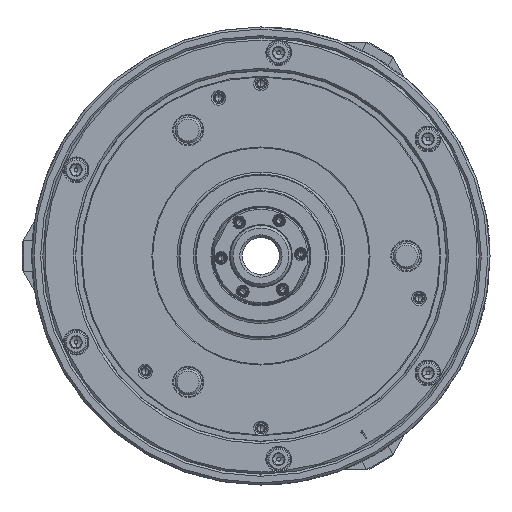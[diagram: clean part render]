
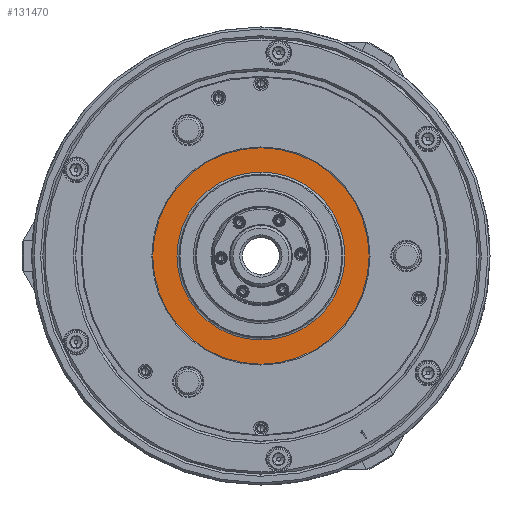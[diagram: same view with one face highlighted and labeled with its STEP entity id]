
A CAD part, left-side view. The second image highlights one B-rep face of the part: STEP entity #131470.
In plain terms, the highlighted planar face has unit normal (-1, 0, 0) as drawn and (0, 0, -1) by its records, which use the part's own axes.
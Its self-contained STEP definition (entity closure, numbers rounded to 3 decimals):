
#4096 = CARTESIAN_POINT ( 'NONE',  ( -49.616, 0., -104.8 ) ) ;
#4656 = FACE_OUTER_BOUND ( 'NONE', #110100, .T. ) ;
#9045 = CARTESIAN_POINT ( 'NONE',  ( 0., 0., -104.8 ) ) ;
#9092 = DIRECTION ( 'NONE',  ( -1., 0., 0. ) ) ;
#12666 = EDGE_CURVE ( 'NONE', #191942, #49890, #180348, .T. ) ;
#27998 = CARTESIAN_POINT ( 'NONE',  ( 0., 0., -104.8 ) ) ;
#35167 = ORIENTED_EDGE ( 'NONE', *, *, #113546, .F. ) ;
#40441 = CIRCLE ( 'NONE', #164610, 38.5 ) ;
#41453 = CARTESIAN_POINT ( 'NONE',  ( -38.5, 0., -104.8 ) ) ;
#42401 = DIRECTION ( 'NONE',  ( 1., 0., 0. ) ) ;
#46450 = EDGE_CURVE ( 'NONE', #49890, #191942, #206757, .T. ) ;
#49890 = VERTEX_POINT ( 'NONE', #4096 ) ;
#52566 = AXIS2_PLACEMENT_3D ( 'NONE', #27998, #75763, #9092 ) ;
#61929 = CARTESIAN_POINT ( 'NONE',  ( 0., 0., -104.8 ) ) ;
#64134 = DIRECTION ( 'NONE',  ( 0., 0., -1. ) ) ;
#64581 = CARTESIAN_POINT ( 'NONE',  ( 0., 0., -104.8 ) ) ;
#65694 = DIRECTION ( 'NONE',  ( -1., 0., 0. ) ) ;
#68914 = AXIS2_PLACEMENT_3D ( 'NONE', #9045, #142364, #42401 ) ;
#75763 = DIRECTION ( 'NONE',  ( 0., 0., -1. ) ) ;
#76981 = VERTEX_POINT ( 'NONE', #41453 ) ;
#82140 = CARTESIAN_POINT ( 'NONE',  ( 49.616, 0., -104.8 ) ) ;
#91833 = CIRCLE ( 'NONE', #215816, 38.5 ) ;
#97265 = CARTESIAN_POINT ( 'NONE',  ( 38.5, 0., -104.8 ) ) ;
#99596 = VERTEX_POINT ( 'NONE', #97265 ) ;
#101164 = DIRECTION ( 'NONE',  ( 0., 0., -1. ) ) ;
#110100 = EDGE_LOOP ( 'NONE', ( #153507, #192489 ) ) ;
#113546 = EDGE_CURVE ( 'NONE', #99596, #76981, #40441, .T. ) ;
#131470 = ADVANCED_FACE ( 'NONE', ( #194557, #4656 ), #159014, .F. ) ;
#136541 = EDGE_LOOP ( 'NONE', ( #211802, #35167 ) ) ;
#142364 = DIRECTION ( 'NONE',  ( 0., 0., 1. ) ) ;
#153507 = ORIENTED_EDGE ( 'NONE', *, *, #46450, .T. ) ;
#159014 = PLANE ( 'NONE',  #68914 ) ;
#164115 = AXIS2_PLACEMENT_3D ( 'NONE', #64581, #101164, #203291 ) ;
#164610 = AXIS2_PLACEMENT_3D ( 'NONE', #61929, #64134, #215162 ) ;
#180348 = CIRCLE ( 'NONE', #52566, 49.616 ) ;
#182338 = CARTESIAN_POINT ( 'NONE',  ( 0., 0., -104.8 ) ) ;
#183338 = EDGE_CURVE ( 'NONE', #76981, #99596, #91833, .T. ) ;
#191942 = VERTEX_POINT ( 'NONE', #82140 ) ;
#192489 = ORIENTED_EDGE ( 'NONE', *, *, #12666, .T. ) ;
#194557 = FACE_BOUND ( 'NONE', #136541, .T. ) ;
#200072 = DIRECTION ( 'NONE',  ( 0., 0., -1. ) ) ;
#203291 = DIRECTION ( 'NONE',  ( -1., 0., 0. ) ) ;
#206757 = CIRCLE ( 'NONE', #164115, 49.616 ) ;
#211802 = ORIENTED_EDGE ( 'NONE', *, *, #183338, .F. ) ;
#215162 = DIRECTION ( 'NONE',  ( -1., 0., 0. ) ) ;
#215816 = AXIS2_PLACEMENT_3D ( 'NONE', #182338, #200072, #65694 ) ;
